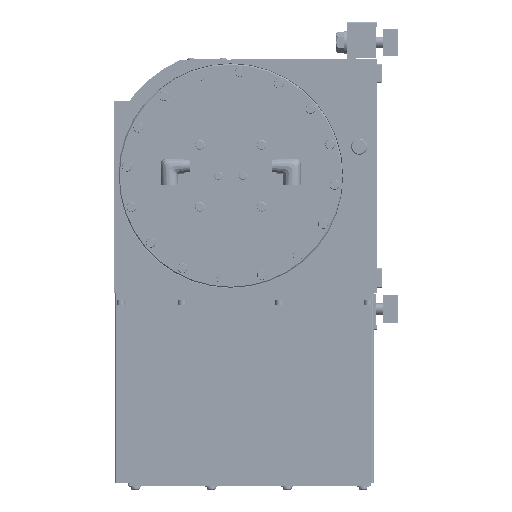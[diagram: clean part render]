
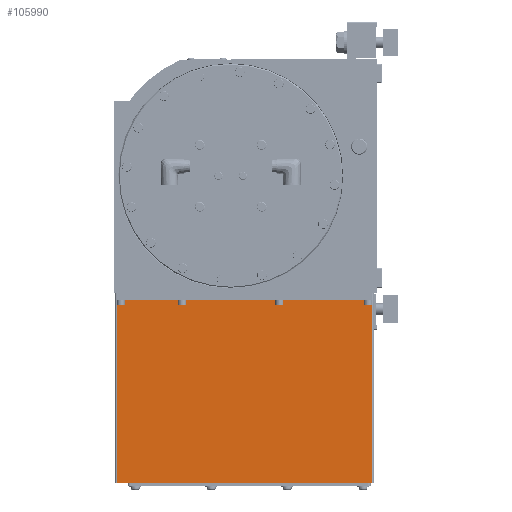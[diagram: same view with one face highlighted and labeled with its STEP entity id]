
A CAD part, left-side view. The second image highlights one B-rep face of the part: STEP entity #105990.
In plain terms, the highlighted planar face has unit normal (-1, 0, 0).
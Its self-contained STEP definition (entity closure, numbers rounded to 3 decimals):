
#613 = DIRECTION ( 'NONE',  ( 0., 0., 1. ) ) ;
#1275 = VECTOR ( 'NONE', #613, 1000. ) ;
#10682 = AXIS2_PLACEMENT_3D ( 'NONE', #109676, #19664, #124726 ) ;
#19664 = DIRECTION ( 'NONE',  ( 1., 0., 0. ) ) ;
#25819 = VECTOR ( 'NONE', #129461, 1000. ) ;
#34115 = PLANE ( 'NONE',  #10682 ) ;
#35678 = VERTEX_POINT ( 'NONE', #136497 ) ;
#39210 = DIRECTION ( 'NONE',  ( 0., 1., 0. ) ) ;
#40186 = CARTESIAN_POINT ( 'NONE',  ( -117.5, 264., -8. ) ) ;
#41146 = LINE ( 'NONE', #150315, #1275 ) ;
#46724 = LINE ( 'NONE', #159374, #77308 ) ;
#53952 = CARTESIAN_POINT ( 'NONE',  ( -117.5, 0., -196. ) ) ;
#65876 = LINE ( 'NONE', #53952, #25819 ) ;
#66791 = ORIENTED_EDGE ( 'NONE', *, *, #171409, .T. ) ;
#77308 = VECTOR ( 'NONE', #39210, 1000. ) ;
#83004 = ORIENTED_EDGE ( 'NONE', *, *, #147305, .T. ) ;
#85094 = VERTEX_POINT ( 'NONE', #101978 ) ;
#87314 = VERTEX_POINT ( 'NONE', #193584 ) ;
#97050 = ORIENTED_EDGE ( 'NONE', *, *, #174751, .T. ) ;
#101978 = CARTESIAN_POINT ( 'NONE',  ( -117.5, 264., -196. ) ) ;
#105990 = ADVANCED_FACE ( 'NONE', ( #136480 ), #34115, .F. ) ;
#109676 = CARTESIAN_POINT ( 'NONE',  ( -117.5, 0., -196. ) ) ;
#124726 = DIRECTION ( 'NONE',  ( 0., 0., -1. ) ) ;
#129461 = DIRECTION ( 'NONE',  ( 0., 1., 0. ) ) ;
#136480 = FACE_OUTER_BOUND ( 'NONE', #149547, .T. ) ;
#136497 = CARTESIAN_POINT ( 'NONE',  ( -117.5, 2., -196. ) ) ;
#147305 = EDGE_CURVE ( 'NONE', #35678, #87314, #41146, .T. ) ;
#149547 = EDGE_LOOP ( 'NONE', ( #168558, #83004, #97050, #66791 ) ) ;
#150315 = CARTESIAN_POINT ( 'NONE',  ( -117.5, 2., -196. ) ) ;
#156779 = CARTESIAN_POINT ( 'NONE',  ( -117.5, 264., -196. ) ) ;
#159374 = CARTESIAN_POINT ( 'NONE',  ( -117.5, 0., -8. ) ) ;
#168558 = ORIENTED_EDGE ( 'NONE', *, *, #174150, .F. ) ;
#171409 = EDGE_CURVE ( 'NONE', #193528, #85094, #193768, .T. ) ;
#171778 = DIRECTION ( 'NONE',  ( 0., 0., -1. ) ) ;
#174150 = EDGE_CURVE ( 'NONE', #35678, #85094, #65876, .T. ) ;
#174751 = EDGE_CURVE ( 'NONE', #87314, #193528, #46724, .T. ) ;
#189126 = VECTOR ( 'NONE', #171778, 1000. ) ;
#193528 = VERTEX_POINT ( 'NONE', #40186 ) ;
#193584 = CARTESIAN_POINT ( 'NONE',  ( -117.5, 2., -8. ) ) ;
#193768 = LINE ( 'NONE', #156779, #189126 ) ;
